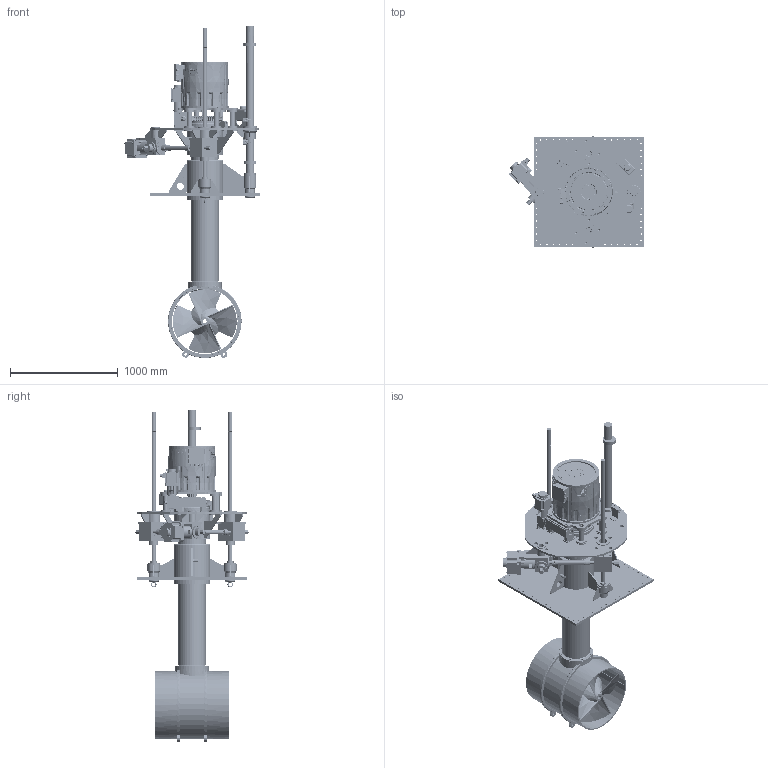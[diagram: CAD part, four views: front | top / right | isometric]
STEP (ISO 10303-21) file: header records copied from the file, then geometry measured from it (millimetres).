
FILE_DESCRIPTION(/* description */ (''),/* implementation_level */ '2;1');
FILE_NAME(/* name */ 'Q:\THRUSTERS\THRUSTER SALES & SUPPORT DOCS\THRUSTER Sales\E-V-R\E-0600-V-R\E-0600-V-R-DEPLOYED.stp',/* time_stamp */ '2021-02-03T08:55:59+00:00',/* author */ ('Barney.Webborn'),/* organization */ (''),/* preprocessor_version */ 'ST-DEVELOPER v17.2',/* originating_system */ 'Autodesk Inventor 2019',/* authorisation */ '');
FILE_SCHEMA (('AUTOMOTIVE_DESIGN { 1 0 10303 214 3 1 1 }'));
Products named in the file (1): E-0600-V-R_Shrinkwrap_1
Bounding box: 1257.88 x 1052.43 x 3088.2 mm (x, y, z)
Volume: 179244892.5 mm3; surface area: 18278536.9 mm2
Topology: 7 solids, 7 shells, 9902 faces, 26976 edges, 17354 vertices
Faces by surface type: plane 4336, cylinder 2555, bspline 1375, cone 996, torus 528, sphere 112
Full cylindrical faces by diameter (mm): 3 x6, 4.95 x8, 5.5 x12, 7 x23, 7.2 x2, 8 x9, 8.376 x1, 8.5 x19, 9 x4, 9.43 x7, 9.5 x1, 9.525 x1, 10 x12, 10.5 x2, 10.56 x1, 12 x21, 12.4 x12, 12.5 x24, 13 x103, 13.157 x1, 13.44 x1, 13.5 x4, 13.9 x3, 14 x5, 14.287 x1, 14.3 x1, 14.376 x2, 14.5 x1, 15 x15, 15.24 x12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
Entity records: 411912 total; most frequent: CARTESIAN_POINT 157710, ORIENTED_EDGE 53550, DIRECTION 48360, EDGE_CURVE 26775, AXIS2_PLACEMENT_3D 18066, VERTEX_POINT 17354, LINE 12228, VECTOR 12228
